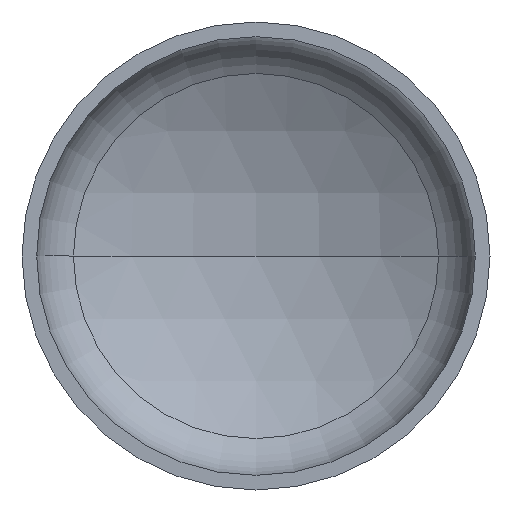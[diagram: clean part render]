
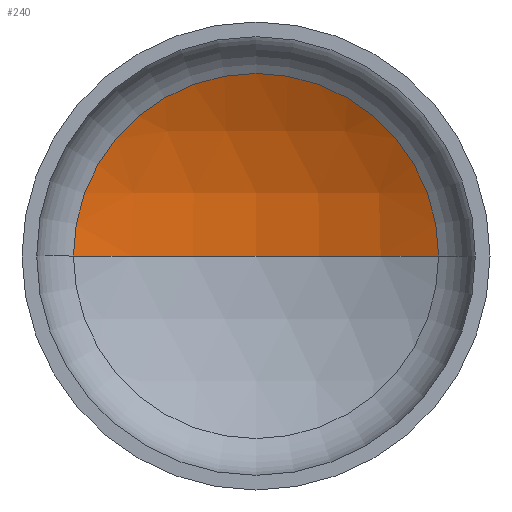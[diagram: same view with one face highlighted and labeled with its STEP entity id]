
A CAD part, front view. The second image highlights one B-rep face of the part: STEP entity #240.
In plain terms, the highlighted spherical face has radius 1200 mm.
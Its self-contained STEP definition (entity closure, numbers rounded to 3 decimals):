
#7 = EDGE_LOOP ( 'NONE', ( #77, #54, #12 ) ) ;
#12 = ORIENTED_EDGE ( 'NONE', *, *, #104, .T. ) ;
#18 = AXIS2_PLACEMENT_3D ( 'NONE', #271, #174, #105 ) ;
#21 = VERTEX_POINT ( 'NONE', #284 ) ;
#36 = AXIS2_PLACEMENT_3D ( 'NONE', #398, #255, #211 ) ;
#39 = AXIS2_PLACEMENT_3D ( 'NONE', #350, #118, #50 ) ;
#41 = AXIS2_PLACEMENT_3D ( 'NONE', #193, #280, #139 ) ;
#50 = DIRECTION ( 'NONE',  ( -1., 0., 0. ) ) ;
#54 = ORIENTED_EDGE ( 'NONE', *, *, #106, .T. ) ;
#56 = VERTEX_POINT ( 'NONE', #370 ) ;
#61 = VERTEX_POINT ( 'NONE', #286 ) ;
#77 = ORIENTED_EDGE ( 'NONE', *, *, #110, .F. ) ;
#104 = EDGE_CURVE ( 'NONE', #56, #61, #304, .T. ) ;
#105 = DIRECTION ( 'NONE',  ( -1., 0., 0. ) ) ;
#106 = EDGE_CURVE ( 'NONE', #21, #56, #366, .T. ) ;
#110 = EDGE_CURVE ( 'NONE', #21, #61, #237, .T. ) ;
#118 = DIRECTION ( 'NONE',  ( 0., 0., -1. ) ) ;
#139 = DIRECTION ( 'NONE',  ( 1., 0., 0. ) ) ;
#174 = DIRECTION ( 'NONE',  ( 0., 0., -1. ) ) ;
#193 = CARTESIAN_POINT ( 'NONE',  ( 0., 350.802, 0. ) ) ;
#211 = DIRECTION ( 'NONE',  ( 1., 0., 0. ) ) ;
#223 = SPHERICAL_SURFACE ( 'NONE', #18, 1200. ) ;
#237 = CIRCLE ( 'NONE', #36, 1200. ) ;
#240 = ADVANCED_FACE ( 'NONE', ( #347 ), #223, .F. ) ;
#255 = DIRECTION ( 'NONE',  ( 0., 0., 1. ) ) ;
#271 = CARTESIAN_POINT ( 'NONE',  ( 0., -696.859, 0. ) ) ;
#280 = DIRECTION ( 'NONE',  ( 0., -1., 0. ) ) ;
#284 = CARTESIAN_POINT ( 'NONE',  ( 0., 503.141, 0. ) ) ;
#286 = CARTESIAN_POINT ( 'NONE',  ( -585.155, 350.802, 0. ) ) ;
#304 = CIRCLE ( 'NONE', #41, 585.155 ) ;
#347 = FACE_OUTER_BOUND ( 'NONE', #7, .T. ) ;
#350 = CARTESIAN_POINT ( 'NONE',  ( 0., -696.859, 0. ) ) ;
#366 = CIRCLE ( 'NONE', #39, 1200. ) ;
#370 = CARTESIAN_POINT ( 'NONE',  ( 585.155, 350.802, 0. ) ) ;
#398 = CARTESIAN_POINT ( 'NONE',  ( 0., -696.859, 0. ) ) ;
